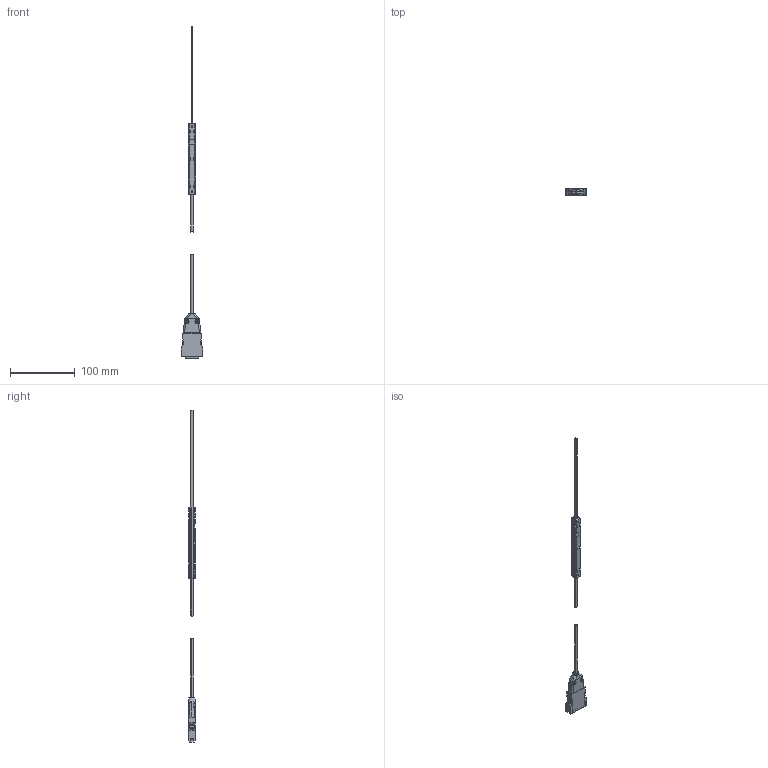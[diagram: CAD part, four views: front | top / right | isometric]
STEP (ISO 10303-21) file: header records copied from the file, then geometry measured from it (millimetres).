
FILE_DESCRIPTION (( 'STEP AP203' ), '1' );
FILE_NAME ('FP-2X-250-TS15M.STEP', '2018-05-18T14:57:03', ( '' ), ( '' ), 'SwSTEP 2.0', 'SolidWorks 2017', '' );
FILE_SCHEMA (( 'CONFIG_CONTROL_DESIGN' ));
Length unit declared in the file: millimetre
Products named in the file (1): FP-2X-250-TS15M
Bounding box: 33.27 x 10.74 x 512.59 mm (x, y, z)
Volume: 31580.8 mm3; surface area: 16868.3 mm2
Topology: 2 solids, 2 shells, 748 faces, 2073 edges, 1332 vertices
Faces by surface type: plane 440, cylinder 158, cone 78, bspline 48, torus 20, sphere 4
Entity records: 29751 total; most frequent: CARTESIAN_POINT 10840, ORIENTED_EDGE 4146, DIRECTION 3730, EDGE_CURVE 2073, VERTEX_POINT 1332, VECTOR 1326, LINE 1326, AXIS2_PLACEMENT_3D 1202
